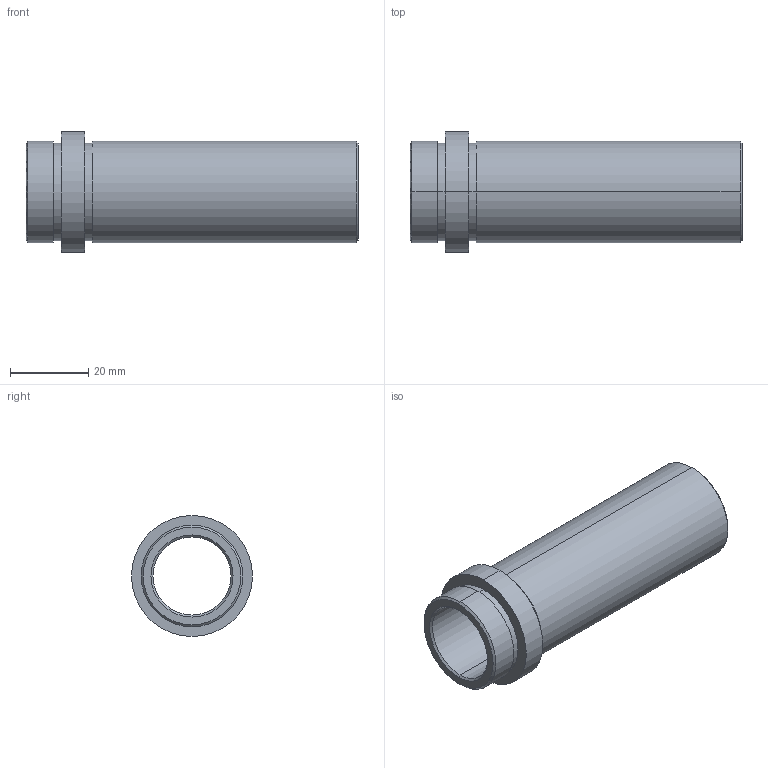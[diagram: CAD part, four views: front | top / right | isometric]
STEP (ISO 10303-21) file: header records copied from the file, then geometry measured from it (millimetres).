
FILE_DESCRIPTION( ( 'STEP AP203' ), '1' );
FILE_NAME( 'D:/Delta 3 D/D21/D21 - 20x76.step', '2002-12-31T22:38:45', ( ' ' ), ( ' ' ), 'XStep 1.0', ' ', ' ' );
FILE_SCHEMA( ( 'CONFIG_CONTROL_DESIGN' ) );
Length unit declared in the file: metre
Products named in the file (1): 1
Bounding box: 85 x 31 x 31 mm (x, y, z)
Volume: 19572.1 mm3; surface area: 13322.1 mm2
Topology: 1 solids, 1 shells, 26 faces, 52 edges, 32 vertices
Faces by surface type: revolution 20, bspline 6
Entity records: 773 total; most frequent: CARTESIAN_POINT 169, DIRECTION 106, ORIENTED_EDGE 104, EDGE_CURVE 52, AXIS2_PLACEMENT_3D 33, EDGE_LOOP 32, VERTEX_POINT 32, CIRCLE 32
